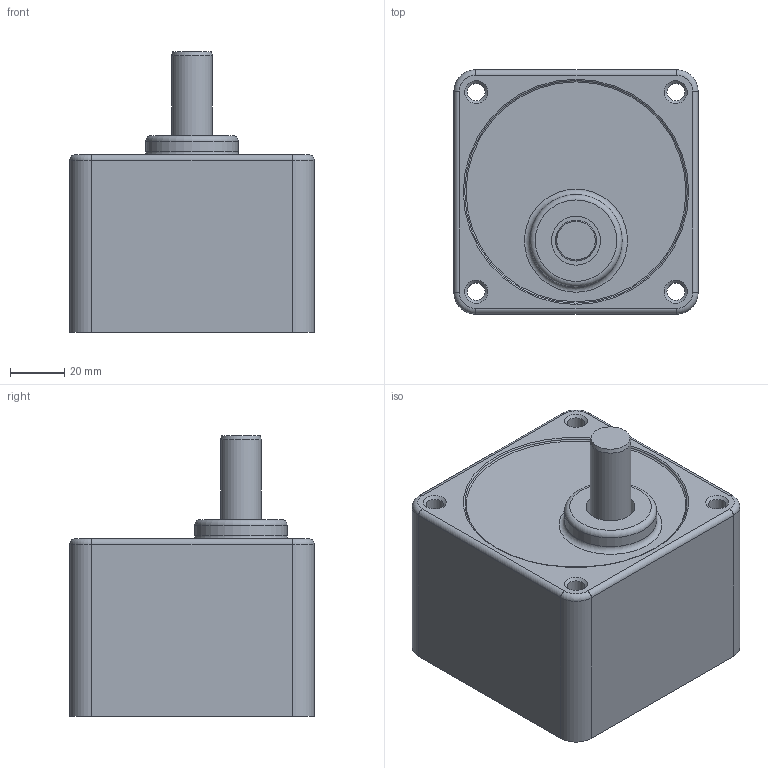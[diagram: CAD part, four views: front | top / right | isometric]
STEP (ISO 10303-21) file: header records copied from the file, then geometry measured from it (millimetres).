
FILE_DESCRIPTION((''),'2;1');
FILE_NAME('D:\STP파일\GEAR HEAD\60W\S9SC3~200.stp','2013-05-20T19:19:44',('leebh'),(''),'Autodesk Inventor 2011','Autodesk Inventor 2011','');
FILE_SCHEMA(('AUTOMOTIVE_DESIGN { 1 0 10303 214 1 1 1 1 }'));
Length unit declared in the file: millimetre
Products named in the file (1): S9I90G-T1
Bounding box: 90 x 90 x 103.5 mm (x, y, z)
Volume: 503321.7 mm3; surface area: 48346 mm2
Topology: 1 solids, 1 shells, 42 faces, 86 edges, 52 vertices
Faces by surface type: cylinder 17, plane 12, torus 8, cone 5
Full cylindrical faces by diameter (mm): 6.5 x4, 12 x1, 15 x1, 18 x1, 34 x1, 83 x1
Entity records: 1062 total; most frequent: DIRECTION 202, CARTESIAN_POINT 163, ORIENTED_EDGE 136, AXIS2_PLACEMENT_3D 91, EDGE_LOOP 74, EDGE_CURVE 68, VERTEX_POINT 52, CIRCLE 48
